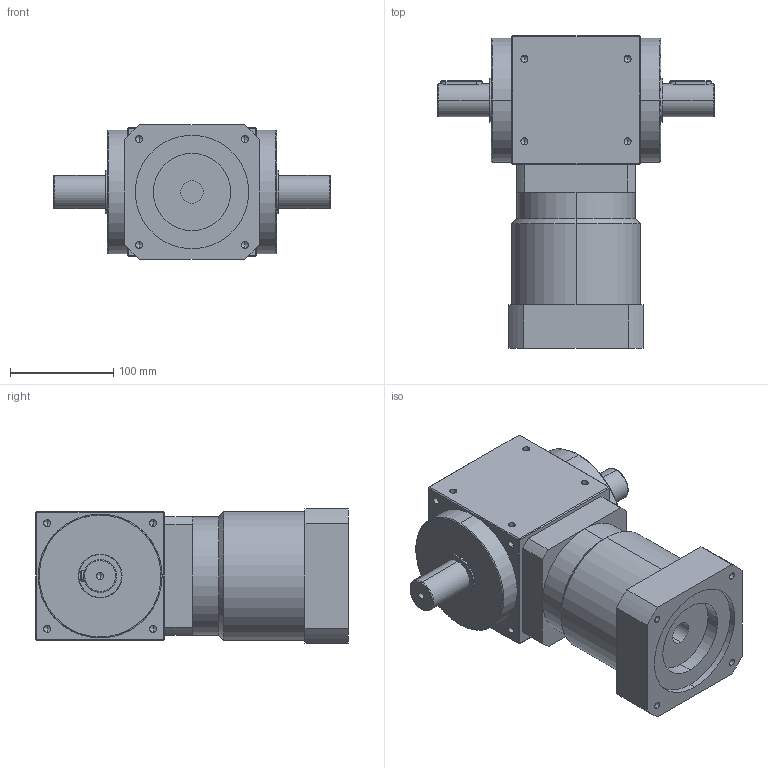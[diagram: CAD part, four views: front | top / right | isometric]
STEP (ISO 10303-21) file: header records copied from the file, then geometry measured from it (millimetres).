
FILE_DESCRIPTION (( 'STEP AP214' ), '1' );
FILE_NAME ('RXW125A-L2-2P-22-110-145-M8.STEP', '2020-12-07T02:21:15', ( '微软用户' ), ( '微软中国' ), 'SwSTEP 2.0', 'SolidWorks 2014', '' );
FILE_SCHEMA (( 'AUTOMOTIVE_DESIGN' ));
Length unit declared in the file: millimetre
Products named in the file (2): RXW125A-L2-2P-22-110-145-M8
Bounding box: 268 x 303 x 130 mm (x, y, z)
Volume: 4664589.3 mm3; surface area: 222976.8 mm2
Topology: 1 solids, 1 shells, 215 faces, 510 edges, 276 vertices
Faces by surface type: cylinder 86, cone 62, plane 59, bspline 8
Entity records: 8432 total; most frequent: CARTESIAN_POINT 1323, DIRECTION 1034, ORIENTED_EDGE 916, EDGE_CURVE 458, AXIS2_PLACEMENT_3D 395, VERTEX_POINT 276, EDGE_LOOP 254, VECTOR 244
